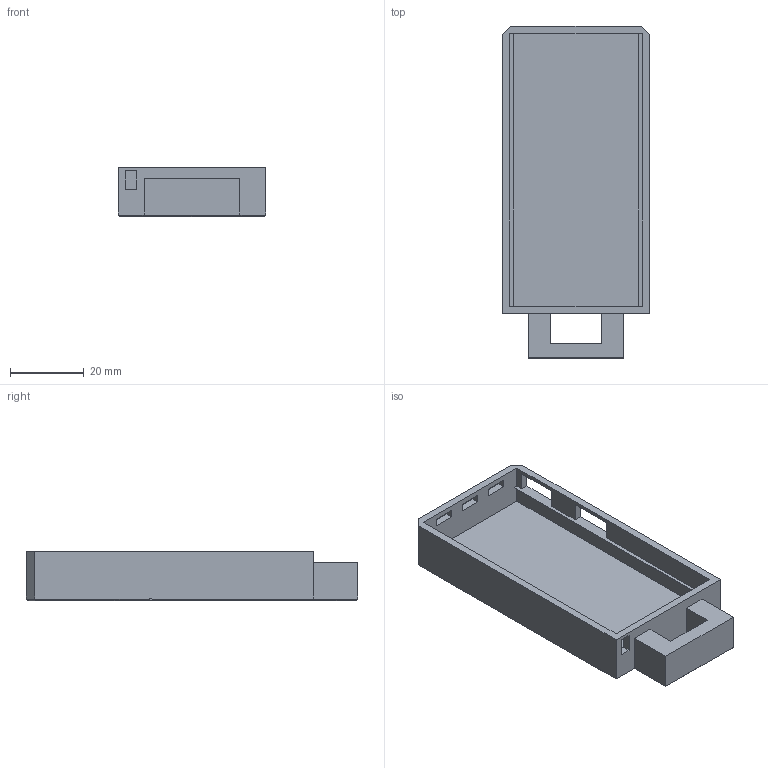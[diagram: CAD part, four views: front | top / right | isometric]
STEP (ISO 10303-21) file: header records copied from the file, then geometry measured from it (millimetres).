
FILE_DESCRIPTION(('Open CASCADE Model'),'2;1');
FILE_NAME('Open CASCADE Shape Model','2026-08-29T07:31:45',('Author'),( 'Open CASCADE'),'Open CASCADE STEP processor 7.9','build123d', 'Unknown');
FILE_SCHEMA(('AUTOMOTIVE_DESIGN { 1 0 10303 214 1 1 1 1 }'));
Length unit declared in the file: millimetre
Products named in the file (1): COMPOUND
Bounding box: 40 x 90 x 13.5 mm (x, y, z)
Volume: 14534.2 mm3; surface area: 12955.5 mm2
Topology: 1 solids, 1 shells, 66 faces, 187 edges, 120 vertices
Faces by surface type: plane 64, cylinder 2
Entity records: 4460 total; most frequent: CARTESIAN_POINT 884, DIRECTION 587, LINE 429, VECTOR 429, ORIENTED_EDGE 374, PCURVE 374, DEFINITIONAL_REPRESENTATION 374, EDGE_CURVE 187
